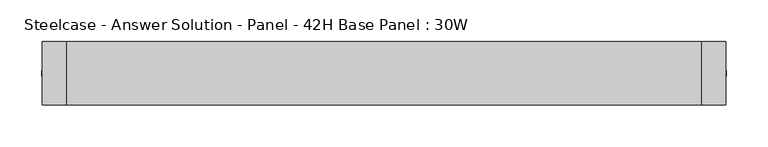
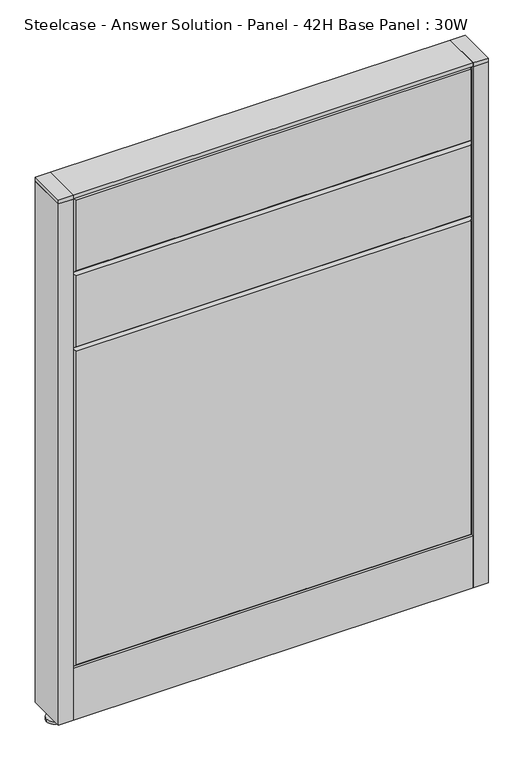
"""IFC4 building model written with IfcOpenShell, lengths in millimetres: furniture geometry, Steelcase - Answer Solution - Panel - 42H Base Panel : 30W."""

from ifc_helpers import new_model, si_unit, point, frame, frame_2d, origin, place, context, project, spatial, polyline, circle_curve, trimmed, segment, composite_curve, outline, extrude, faceted_brep, source, transform, mapped, element, save


def steelcase_answer_solution_panel_42h_base_panel_30w_17cdd90a(model_context):
    return source(origin(), model_context, "Body", "SolidModel", [
        extrude(outline(composite_curve([segment(trimmed(circle_curve(frame_2d((395.224, 0.0039657)), 5.08), [point((400.304, 0.0039657))], [point((390.144, 0.0039657))], False, "CARTESIAN"), True, "CONTINUOUS"), segment(trimmed(circle_curve(frame_2d((395.224, 0.0039657)), 5.08), [point((390.144, 0.0039657))], [point((400.304, 0.0039657))], False, "CARTESIAN"), True, "CONTINUOUS")], self_intersect=False)), frame((0.0, 0.0, 5.0799671), z_axis=(0.0, 0.0, 1.0), x_axis=(1.0, 0.0, 0.0)), (0.0, 0.0, 1.0), 10.414),
        extrude(outline(composite_curve([segment(trimmed(circle_curve(frame_2d((395.224, 0.0039657)), 15.24), [point((410.464, 0.0039657))], [point((379.984, 0.0039657))], False, "CARTESIAN"), True, "CONTINUOUS"), segment(trimmed(circle_curve(frame_2d((395.224, 0.0039657)), 15.24), [point((379.984, 0.0039657))], [point((410.464, 0.0039657))], False, "CARTESIAN"), True, "CONTINUOUS")], self_intersect=False)), frame((0.0, 0.0, -3.29e-05), z_axis=(0.0, 0.0, 1.0), x_axis=(1.0, 0.0, 0.0)), (0.0, 0.0, 1.0), 5.08),
        extrude(outline(polyline([(409.575, 38.1039851), (409.575, -38.0960149), (381.0, -38.0960149), (381.0, 38.1039851), (409.575, 38.1039851)])), frame((0.0, 0.0, 1065.8348), z_axis=(0.0, 0.0, 1.0), x_axis=(1.0, 0.0, 0.0)), (0.0, 0.0, 1.0), 7.3151671),
        extrude(outline(polyline([(409.575, 38.1039851), (409.575, -38.0960149), (381.0, -38.0960149), (381.0, 38.1039851), (409.575, 38.1039851)])), frame((0.0, 0.0, 15.4939671), z_axis=(0.0, 0.0, 1.0), x_axis=(1.0, 0.0, 0.0)), (0.0, 0.0, 1.0), 1050.3408329),
        extrude(outline(composite_curve([segment(trimmed(circle_curve(frame_2d((-395.224, 0.0039657)), 5.08), [point((-400.304, 0.0039657))], [point((-390.144, 0.0039657))], False, "CARTESIAN"), True, "CONTINUOUS"), segment(trimmed(circle_curve(frame_2d((-395.224, 0.0039657)), 5.08), [point((-390.144, 0.0039657))], [point((-400.304, 0.0039657))], False, "CARTESIAN"), True, "CONTINUOUS")], self_intersect=False)), frame((0.0, 0.0, 5.0799671), z_axis=(0.0, 0.0, 1.0), x_axis=(1.0, 0.0, 0.0)), (0.0, 0.0, 1.0), 10.414),
        extrude(outline(composite_curve([segment(trimmed(circle_curve(frame_2d((-395.224, 0.0039657)), 15.24), [point((-410.464, 0.0039657))], [point((-379.984, 0.0039657))], False, "CARTESIAN"), True, "CONTINUOUS"), segment(trimmed(circle_curve(frame_2d((-395.224, 0.0039657)), 15.24), [point((-379.984, 0.0039657))], [point((-410.464, 0.0039657))], False, "CARTESIAN"), True, "CONTINUOUS")], self_intersect=False)), frame((0.0, 0.0, -3.29e-05), z_axis=(0.0, 0.0, 1.0), x_axis=(1.0, 0.0, 0.0)), (0.0, 0.0, 1.0), 5.08),
        extrude(outline(polyline([(-409.575, 38.1039851), (-381.0, 38.1039851), (-381.0, -38.0960149), (-409.575, -38.0960149), (-409.575, 38.1039851)])), frame((0.0, 0.0, 1065.8348), z_axis=(0.0, 0.0, 1.0), x_axis=(1.0, 0.0, 0.0)), (0.0, 0.0, 1.0), 7.3151671),
        extrude(outline(polyline([(-409.575, 38.1039851), (-381.0, 38.1039851), (-381.0, -38.0960149), (-409.575, -38.0960149), (-409.575, 38.1039851)])), frame((0.0, 0.0, 15.4939671), z_axis=(0.0, 0.0, 1.0), x_axis=(1.0, 0.0, 0.0)), (0.0, 0.0, 1.0), 1050.3408329),
        faceted_brep([(-376.174, 38.1635011, 1061.974), (376.174, 38.1635011, 1061.974), (376.174, 38.1635011, 919.226), (-376.174, 38.1635011, 919.226), (-381.0, 33.3375011, 1066.8), (-381.0, 33.3375011, 914.4), (381.0, 33.3375011, 914.4), (381.0, 33.3375011, 1066.8)], [[[0, 1, 2, 3]], [[4, 5, 6, 7]], [[4, 7, 1, 0]], [[7, 6, 2, 1]], [[6, 5, 3, 2]], [[5, 4, 0, 3]]]),
        faceted_brep([(-376.174, 38.1635011, 909.574), (376.174, 38.1635011, 909.574), (376.174, 38.1635011, 766.826), (-376.174, 38.1635011, 766.826), (-381.0, 33.3375011, 914.4), (-381.0, 33.3375011, 762.0), (381.0, 33.3375011, 762.0), (381.0, 33.3375011, 914.4)], [[[0, 1, 2, 3]], [[4, 5, 6, 7]], [[4, 7, 1, 0]], [[7, 6, 2, 1]], [[6, 5, 3, 2]], [[5, 4, 0, 3]]]),
        faceted_brep([(-376.174, 38.1635011, 757.174), (376.174, 38.1635011, 757.174), (376.174, 38.1635011, 125.476), (-376.174, 38.1635011, 125.476), (-381.0, 33.3375011, 762.0), (-381.0, 33.3375011, 120.65), (381.0, 33.3375011, 120.65), (381.0, 33.3375011, 762.0)], [[[0, 1, 2, 3]], [[4, 5, 6, 7]], [[4, 7, 1, 0]], [[7, 6, 2, 1]], [[6, 5, 3, 2]], [[5, 4, 0, 3]]]),
        faceted_brep([(376.174, -38.1635011, 1061.974), (-376.174, -38.1635011, 1061.974), (-376.174, -38.1635011, 919.226), (376.174, -38.1635011, 919.226), (381.0, -33.3375011, 1066.8), (381.0, -33.3375011, 914.4), (-381.0, -33.3375011, 914.4), (-381.0, -33.3375011, 1066.8)], [[[0, 1, 2, 3]], [[4, 5, 6, 7]], [[4, 7, 1, 0]], [[7, 6, 2, 1]], [[6, 5, 3, 2]], [[5, 4, 0, 3]]]),
        faceted_brep([(376.174, -38.1635011, 909.574), (-376.174, -38.1635011, 909.574), (-376.174, -38.1635011, 766.826), (376.174, -38.1635011, 766.826), (381.0, -33.3375011, 914.4), (381.0, -33.3375011, 762.0), (-381.0, -33.3375011, 762.0), (-381.0, -33.3375011, 914.4)], [[[0, 1, 2, 3]], [[4, 5, 6, 7]], [[4, 7, 1, 0]], [[7, 6, 2, 1]], [[6, 5, 3, 2]], [[5, 4, 0, 3]]]),
        faceted_brep([(376.174, -38.1635011, 757.174), (-376.174, -38.1635011, 757.174), (-376.174, -38.1635011, 125.476), (376.174, -38.1635011, 125.476), (381.0, -33.3375011, 762.0), (381.0, -33.3375011, 120.65), (-381.0, -33.3375011, 120.65), (-381.0, -33.3375011, 762.0)], [[[0, 1, 2, 3]], [[4, 5, 6, 7]], [[4, 7, 1, 0]], [[7, 6, 2, 1]], [[6, 5, 3, 2]], [[5, 4, 0, 3]]]),
        extrude(outline(polyline([(381.0, 38.1000194), (381.0, -38.1000194), (-381.0, -38.1000194), (-381.0, 38.1000194), (381.0, 38.1000194)])), frame((0.0, 0.0, 1066.8), z_axis=(0.0, 0.0, 1.0), x_axis=(1.0, 0.0, 0.0)), (0.0, 0.0, 1.0), 6.35),
        extrude(outline(polyline([(25.4000011, 119.8575157), (25.4000011, 120.65), (38.1000194, 120.65), (38.1000194, 15.494), (37.3075215, 15.494), (37.3075215, 119.8575157), (25.4000011, 119.8575157)])), frame((-381.0, 0.0, 0.0), z_axis=(1.0, 0.0, 0.0), x_axis=(0.0, 1.0, 0.0)), (0.0, 0.0, 1.0), 762.0),
        extrude(outline(polyline([(-25.4000011, 119.8575157), (-37.3075215, 119.8575157), (-37.3075215, 15.494), (-38.1000194, 15.494), (-38.1000194, 120.65), (-25.4000011, 120.65), (-25.4000011, 119.8575157)])), frame((-381.0, 0.0, 0.0), z_axis=(1.0, 0.0, 0.0), x_axis=(0.0, 1.0, 0.0)), (0.0, 0.0, 1.0), 762.0),
    ])


if __name__ == "__main__":
    model = new_model("IFC4")
    model_context = context("Model", 3, world=origin())
    ifc_project = project(units=[si_unit("LENGTHUNIT", "METRE", prefix="MILLI")], contexts=[model_context])
    site = spatial("IfcSite", under=ifc_project)
    building = spatial("IfcBuilding", under=site)
    placement = place(None, origin())
    steelcase_answer_solution_panel_42h_base_panel_30w_shape = steelcase_answer_solution_panel_42h_base_panel_30w_17cdd90a(model_context)
    element("IfcFurniture", 1, ObjectType="Steelcase - Answer Solution - Panel - 42H Base Panel : 30W", at=placement, inside=building, context=model_context, shape_type="MappedRepresentation", body=[
        mapped(steelcase_answer_solution_panel_42h_base_panel_30w_shape, transform((0.0, 0.0, 0.0), x_axis=(1.0, 0.0, 0.0), y_axis=(0.0, 1.0, 0.0), z_axis=(0.0, 0.0, 1.0))),
    ])
    save(model, "model.ifc")
